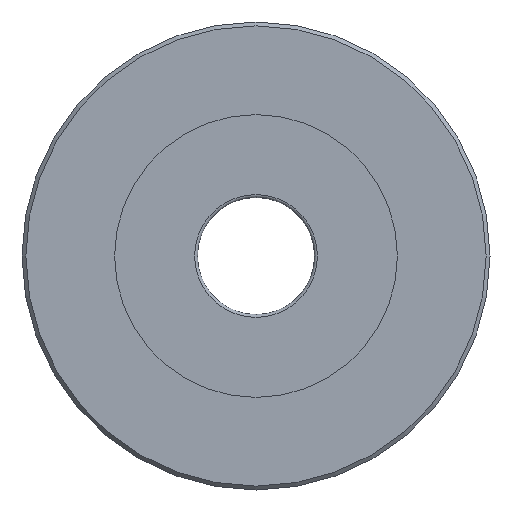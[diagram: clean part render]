
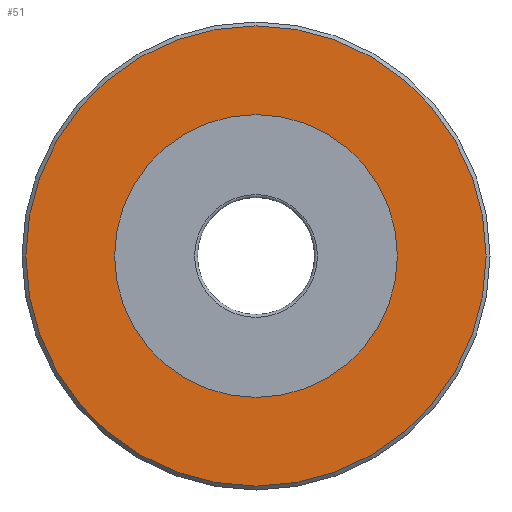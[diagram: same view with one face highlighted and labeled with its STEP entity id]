
A CAD part, left-side view. The second image highlights one B-rep face of the part: STEP entity #51.
In plain terms, the highlighted planar face has unit normal (-1, 0, 0).
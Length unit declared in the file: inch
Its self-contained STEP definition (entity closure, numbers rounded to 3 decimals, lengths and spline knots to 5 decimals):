
#24=CARTESIAN_POINT('',(10.75,36.3,0.));
#25=VERTEX_POINT('',#24);
#26=CARTESIAN_POINT('',(10.75,24.5,0.));
#27=DIRECTION('',(-1.,0.,0.));
#28=DIRECTION('',(0.,1.,0.));
#29=AXIS2_PLACEMENT_3D('',#26,#27,#28);
#30=CIRCLE('',#29,11.8);
#31=EDGE_CURVE('',#25,#25,#30,.T.);
#32=ORIENTED_EDGE('',*,*,#31,.T.);
#33=EDGE_LOOP('',(#32));
#34=FACE_OUTER_BOUND('',#33,.T.);
#35=CARTESIAN_POINT('',(10.75,31.75,0.));
#36=VERTEX_POINT('',#35);
#37=CARTESIAN_POINT('',(10.75,24.5,0.));
#38=DIRECTION('',(-1.,0.,0.));
#39=DIRECTION('',(0.,1.,0.));
#40=AXIS2_PLACEMENT_3D('',#37,#38,#39);
#41=CIRCLE('',#40,7.25);
#42=EDGE_CURVE('',#36,#36,#41,.T.);
#43=ORIENTED_EDGE('',*,*,#42,.F.);
#44=EDGE_LOOP('',(#43));
#45=FACE_BOUND('',#44,.T.);
#46=CARTESIAN_POINT('',(10.75,34.025,0.));
#47=DIRECTION('',(-1.,0.,0.));
#48=DIRECTION('',(0.,1.,0.));
#49=AXIS2_PLACEMENT_3D('',#46,#47,#48);
#50=PLANE('',#49);
#51=ADVANCED_FACE('',(#34,#45),#50,.T.);
